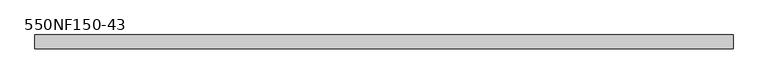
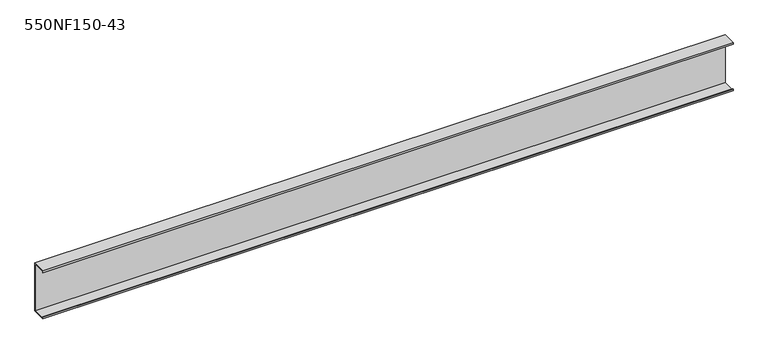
"""IFC4 building model written with IfcOpenShell, lengths in millimetres: beam geometry, BIMSF-SSMA-S : 550NF150-43."""

from ifc_helpers import new_model, si_unit, frame, origin, place, context, project, spatial, polyline, outline, extrude, source, transform, mapped, element, save


def beam_550nf150_43_0e6ccdb0(model_context):
    return source(origin(), model_context, "Body", "SweptSolid", [
        extrude(outline(polyline([(19.05, 69.85), (19.05, -69.85), (-19.05, -69.85), (-19.05, -65.0748), (-17.9003158, -65.0748), (-17.9003158, -68.7003158), (17.9003158, -68.7003158), (17.9003158, 68.7003158), (-17.9003158, 68.7003158), (-17.9003158, 65.0748), (-19.05, 65.0748), (-19.05, 69.85), (19.05, 69.85)])), frame((-952.5, 0.0, 0.0), z_axis=(1.0, 0.0, 0.0), x_axis=(0.0, 1.0, 0.0)), (0.0, 0.0, 1.0), 1905.0),
    ])


if __name__ == "__main__":
    model = new_model("IFC4")
    model_context = context("Model", 3, world=origin())
    ifc_project = project(units=[si_unit("LENGTHUNIT", "METRE", prefix="MILLI")], contexts=[model_context])
    site = spatial("IfcSite", under=ifc_project)
    building = spatial("IfcBuilding", under=site)
    placement = place(None, origin())
    beam_550nf150_43_shape = beam_550nf150_43_0e6ccdb0(model_context)
    element("IfcBeam", 1, ObjectType="BIMSF-SSMA-S : 550NF150-43", at=placement, inside=building, context=model_context, shape_type="MappedRepresentation", body=[
        mapped(beam_550nf150_43_shape, transform((0.0, 0.0, 0.0), x_axis=(1.0, 0.0, 0.0), y_axis=(0.0, 1.0, 0.0), z_axis=(0.0, 0.0, 1.0))),
    ])
    save(model, "model.ifc")
